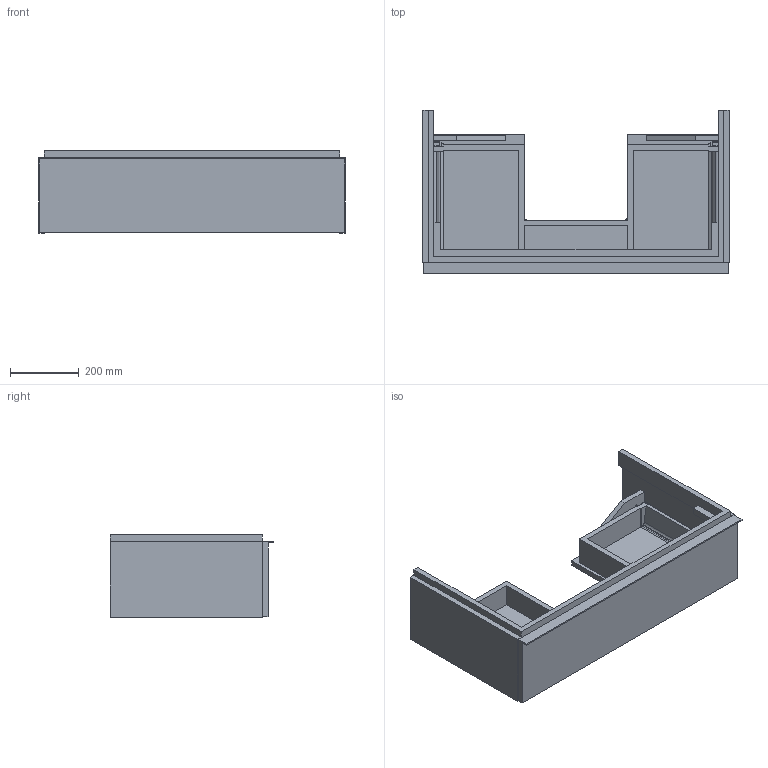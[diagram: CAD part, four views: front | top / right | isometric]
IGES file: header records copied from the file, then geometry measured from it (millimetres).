
Global section: file name: 841292000; native system: Autodesk Inventor 2018; preprocessor: unknown; author: JANAN; date: 20190719.134022; units: millimetre
Bounding box: 890 x 475.9 x 240 mm (x, y, z)
Volume: 18658384.9 mm3; surface area: 2576590.9 mm2
Topology: 1 solids, 1 shells, 378 faces, 1139 edges, 753 vertices
Faces by surface type: bspline 378
